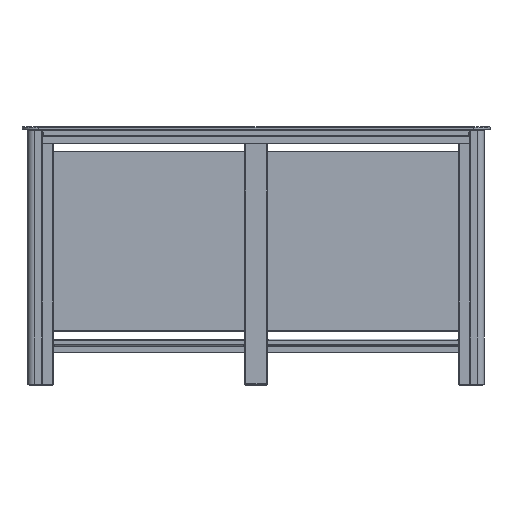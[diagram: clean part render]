
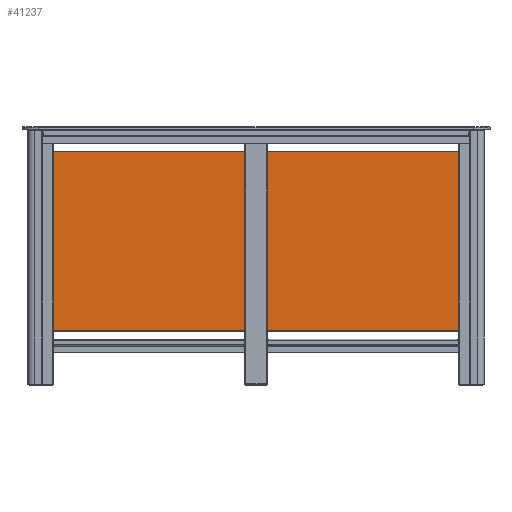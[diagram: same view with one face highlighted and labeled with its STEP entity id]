
A CAD part, left-side view. The second image highlights one B-rep face of the part: STEP entity #41237.
In plain terms, the highlighted planar face has unit normal (-1, 0, 0) as drawn and (0, 0, 1) by its records, which use the part's own axes.
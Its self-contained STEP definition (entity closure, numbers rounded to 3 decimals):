
#5272=LINE('',#67128,#9626);
#5273=LINE('',#67132,#9627);
#5274=LINE('',#67136,#9628);
#5275=LINE('',#67140,#9629);
#9626=VECTOR('',#54481,1000.);
#9627=VECTOR('',#54484,1000.);
#9628=VECTOR('',#54487,1000.);
#9629=VECTOR('',#54490,1000.);
#19375=ORIENTED_EDGE('',*,*,#26204,.T.);
#19376=ORIENTED_EDGE('',*,*,#26205,.T.);
#19377=ORIENTED_EDGE('',*,*,#26206,.T.);
#19378=ORIENTED_EDGE('',*,*,#26207,.T.);
#19379=ORIENTED_EDGE('',*,*,#26208,.T.);
#19380=ORIENTED_EDGE('',*,*,#26209,.T.);
#19381=ORIENTED_EDGE('',*,*,#26210,.T.);
#19382=ORIENTED_EDGE('',*,*,#26211,.T.);
#19383=ORIENTED_EDGE('',*,*,#26212,.T.);
#19384=ORIENTED_EDGE('',*,*,#26213,.T.);
#19385=ORIENTED_EDGE('',*,*,#26214,.T.);
#19386=ORIENTED_EDGE('',*,*,#26215,.T.);
#19387=ORIENTED_EDGE('',*,*,#26216,.T.);
#19388=ORIENTED_EDGE('',*,*,#26217,.T.);
#26204=EDGE_CURVE('',#30269,#30269,#31759,.T.);
#26205=EDGE_CURVE('',#30270,#30270,#31760,.T.);
#26206=EDGE_CURVE('',#30271,#30271,#31761,.T.);
#26207=EDGE_CURVE('',#30272,#30272,#31762,.T.);
#26208=EDGE_CURVE('',#30273,#30273,#31763,.T.);
#26209=EDGE_CURVE('',#30274,#30275,#31764,.F.);
#26210=EDGE_CURVE('',#30275,#30276,#5272,.T.);
#26211=EDGE_CURVE('',#30276,#30277,#31765,.F.);
#26212=EDGE_CURVE('',#30277,#30278,#5273,.T.);
#26213=EDGE_CURVE('',#30278,#30279,#31766,.F.);
#26214=EDGE_CURVE('',#30279,#30280,#5274,.T.);
#26215=EDGE_CURVE('',#30280,#30281,#31767,.F.);
#26216=EDGE_CURVE('',#30281,#30274,#5275,.T.);
#26217=EDGE_CURVE('',#30282,#30282,#31768,.T.);
#30269=VERTEX_POINT('',#67116);
#30270=VERTEX_POINT('',#67118);
#30271=VERTEX_POINT('',#67120);
#30272=VERTEX_POINT('',#67122);
#30273=VERTEX_POINT('',#67124);
#30274=VERTEX_POINT('',#67126);
#30275=VERTEX_POINT('',#67127);
#30276=VERTEX_POINT('',#67129);
#30277=VERTEX_POINT('',#67131);
#30278=VERTEX_POINT('',#67133);
#30279=VERTEX_POINT('',#67135);
#30280=VERTEX_POINT('',#67137);
#30281=VERTEX_POINT('',#67139);
#30282=VERTEX_POINT('',#67142);
#31759=CIRCLE('',#44865,7.);
#31760=CIRCLE('',#44866,7.);
#31761=CIRCLE('',#44867,7.);
#31762=CIRCLE('',#44868,7.);
#31763=CIRCLE('',#44869,7.);
#31764=CIRCLE('',#44870,14.);
#31765=CIRCLE('',#44871,14.);
#31766=CIRCLE('',#44872,14.);
#31767=CIRCLE('',#44873,14.);
#31768=CIRCLE('',#44874,7.);
#34351=EDGE_LOOP('',(#19375));
#34352=EDGE_LOOP('',(#19376));
#34353=EDGE_LOOP('',(#19377));
#34354=EDGE_LOOP('',(#19378));
#34355=EDGE_LOOP('',(#19379));
#34356=EDGE_LOOP('',(#19380,#19381,#19382,#19383,#19384,#19385,#19386,#19387));
#34357=EDGE_LOOP('',(#19388));
#37269=FACE_BOUND('',#34351,.T.);
#37270=FACE_BOUND('',#34352,.T.);
#37271=FACE_BOUND('',#34353,.T.);
#37272=FACE_BOUND('',#34354,.T.);
#37273=FACE_BOUND('',#34355,.T.);
#37274=FACE_BOUND('',#34356,.T.);
#37275=FACE_BOUND('',#34357,.T.);
#39198=PLANE('',#44864);
#41237=ADVANCED_FACE('',(#37269,#37270,#37271,#37272,#37273,#37274,#37275),
#39198,.F.);
#44864=AXIS2_PLACEMENT_3D('',#67114,#54467,#54468);
#44865=AXIS2_PLACEMENT_3D('',#67115,#54469,#54470);
#44866=AXIS2_PLACEMENT_3D('',#67117,#54471,#54472);
#44867=AXIS2_PLACEMENT_3D('',#67119,#54473,#54474);
#44868=AXIS2_PLACEMENT_3D('',#67121,#54475,#54476);
#44869=AXIS2_PLACEMENT_3D('',#67123,#54477,#54478);
#44870=AXIS2_PLACEMENT_3D('',#67125,#54479,#54480);
#44871=AXIS2_PLACEMENT_3D('',#67130,#54482,#54483);
#44872=AXIS2_PLACEMENT_3D('',#67134,#54485,#54486);
#44873=AXIS2_PLACEMENT_3D('',#67138,#54488,#54489);
#44874=AXIS2_PLACEMENT_3D('',#67141,#54491,#54492);
#54467=DIRECTION('',(0.,0.,-1.));
#54468=DIRECTION('',(-1.,0.,0.));
#54469=DIRECTION('',(0.,0.,-1.));
#54470=DIRECTION('',(-1.,0.,0.));
#54471=DIRECTION('',(0.,0.,-1.));
#54472=DIRECTION('',(-1.,0.,0.));
#54473=DIRECTION('',(0.,0.,-1.));
#54474=DIRECTION('',(-1.,0.,0.));
#54475=DIRECTION('',(0.,0.,-1.));
#54476=DIRECTION('',(-1.,0.,0.));
#54477=DIRECTION('',(0.,0.,-1.));
#54478=DIRECTION('',(-1.,0.,0.));
#54479=DIRECTION('',(0.,0.,-1.));
#54480=DIRECTION('',(-1.,0.,0.));
#54481=DIRECTION('',(1.,0.,0.));
#54482=DIRECTION('',(0.,0.,-1.));
#54483=DIRECTION('',(-1.,0.,0.));
#54484=DIRECTION('',(0.,1.,0.));
#54485=DIRECTION('',(0.,0.,-1.));
#54486=DIRECTION('',(-1.,0.,0.));
#54487=DIRECTION('',(-1.,0.,0.));
#54488=DIRECTION('',(0.,0.,-1.));
#54489=DIRECTION('',(-1.,0.,0.));
#54490=DIRECTION('',(0.,-1.,0.));
#54491=DIRECTION('',(0.,0.,-1.));
#54492=DIRECTION('',(-1.,0.,0.));
#67114=CARTESIAN_POINT('',(850.,350.,4.));
#67115=CARTESIAN_POINT('',(825.,250.,4.));
#67116=CARTESIAN_POINT('',(818.,250.,4.));
#67117=CARTESIAN_POINT('',(825.,-250.,4.));
#67118=CARTESIAN_POINT('',(818.,-250.,4.));
#67119=CARTESIAN_POINT('',(0.,-200.,4.));
#67120=CARTESIAN_POINT('',(-7.,-200.,4.));
#67121=CARTESIAN_POINT('',(-825.,-250.,4.));
#67122=CARTESIAN_POINT('',(-832.,-250.,4.));
#67123=CARTESIAN_POINT('',(-825.,250.,4.));
#67124=CARTESIAN_POINT('',(-832.,250.,4.));
#67125=CARTESIAN_POINT('',(-835.,-335.,4.));
#67126=CARTESIAN_POINT('',(-849.,-335.,4.));
#67127=CARTESIAN_POINT('',(-835.,-349.,4.));
#67128=CARTESIAN_POINT('',(835.,-349.,4.));
#67129=CARTESIAN_POINT('',(835.,-349.,4.));
#67130=CARTESIAN_POINT('',(835.,-335.,4.));
#67131=CARTESIAN_POINT('',(849.,-335.,4.));
#67132=CARTESIAN_POINT('',(849.,335.,4.));
#67133=CARTESIAN_POINT('',(849.,335.,4.));
#67134=CARTESIAN_POINT('',(835.,335.,4.));
#67135=CARTESIAN_POINT('',(835.,349.,4.));
#67136=CARTESIAN_POINT('',(-835.,349.,4.));
#67137=CARTESIAN_POINT('',(-835.,349.,4.));
#67138=CARTESIAN_POINT('',(-835.,335.,4.));
#67139=CARTESIAN_POINT('',(-849.,335.,4.));
#67140=CARTESIAN_POINT('',(-849.,-335.,4.));
#67141=CARTESIAN_POINT('',(0.,200.,4.));
#67142=CARTESIAN_POINT('',(-7.,200.,4.));
